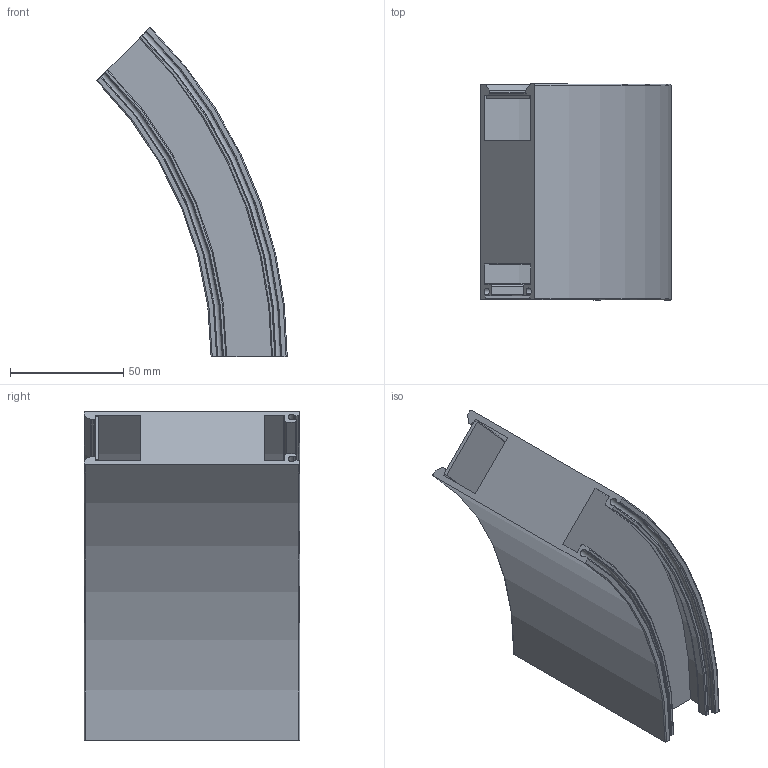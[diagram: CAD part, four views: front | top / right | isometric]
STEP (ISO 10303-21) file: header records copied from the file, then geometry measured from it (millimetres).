
FILE_DESCRIPTION(/* description */ (''),/* implementation_level */ '2;1');
FILE_NAME(/* name */ 'Evelo S R200 Blank Assembly.stp',/* time_stamp */ '2024-09-20T16:56:33+10:00',/* author */ ('Mlight Projects'),/* organization */ (''),/* preprocessor_version */ 'ST-DEVELOPER v20',/* originating_system */ 'Autodesk Inventor 2024',/* authorisation */ '');
FILE_SCHEMA (('AUTOMOTIVE_DESIGN { 1 0 10303 214 3 1 1 }'));
Length unit declared in the file: millimetre
Products named in the file (3): Evelo S R200 Optics Assembly; Body R200; Blanks R300
Assembly tree (2 placements, depth 2):
  Evelo S R200 Optics Assembly
    Body R200
    Blanks R300
Bounding box: 84.04 x 95.1 x 145.52 mm (x, y, z)
Volume: 314227.9 mm3; surface area: 68212.8 mm2
Topology: 2 solids, 2 shells, 66 faces, 186 edges, 124 vertices
Faces by surface type: torus 28, plane 18, cylinder 12, cone 8
Entity records: 2315 total; most frequent: DIRECTION 446, CARTESIAN_POINT 381, ORIENTED_EDGE 372, AXIS2_PLACEMENT_3D 189, EDGE_CURVE 186, VERTEX_POINT 124, CIRCLE 118, LINE 68
